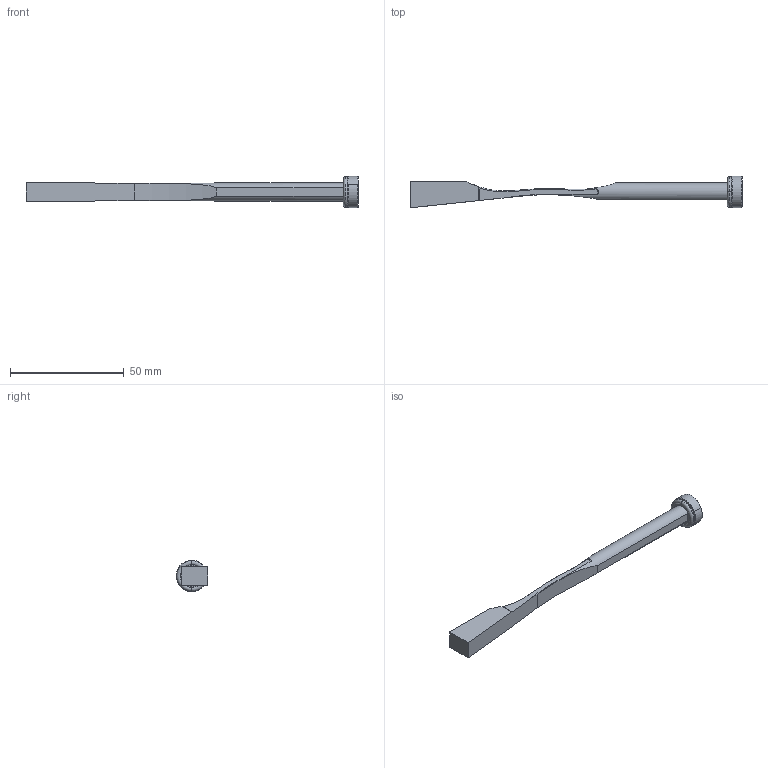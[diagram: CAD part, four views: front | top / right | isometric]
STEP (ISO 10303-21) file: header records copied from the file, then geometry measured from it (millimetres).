
FILE_DESCRIPTION (( 'STEP AP214' ), '1' );
FILE_NAME ('pw080825_injection.STEP', '2021-07-15T09:11:50', ( '' ), ( '' ), 'SwSTEP 2.0', 'SolidWorks 2019', '' );
FILE_SCHEMA (( 'AUTOMOTIVE_DESIGN' ));
Length unit declared in the file: millimetre
Products named in the file (5): 9PW080825 TANCADA; 3JT9.5X2X13.5; 9FP1406M5; pw080825_injection; 1DIN7984516_DIN 7984 - M5 x 16 --- 16C
Assembly tree (4 placements, depth 2):
  pw080825_injection
    9PW080825 TANCADA
    9FP1406M5
    1DIN7984516_DIN 7984 - M5 x 16 --- 16C
    3JT9.5X2X13.5
Bounding box: 146 x 13.9 x 13.8 mm (x, y, z)
Volume: 7044.8 mm3; surface area: 5625 mm2
Topology: 4 solids, 4 shells, 456 faces, 1236 edges, 810 vertices
Faces by surface type: bspline 253, plane 108, cylinder 63, cone 16, torus 16
Entity records: 26217 total; most frequent: CARTESIAN_POINT 16861, ORIENTED_EDGE 2464, EDGE_CURVE 1232, DIRECTION 891, B_SPLINE_CURVE_WITH_KNOTS 869, VERTEX_POINT 810, EDGE_LOOP 486, FACE_OUTER_BOUND 456
